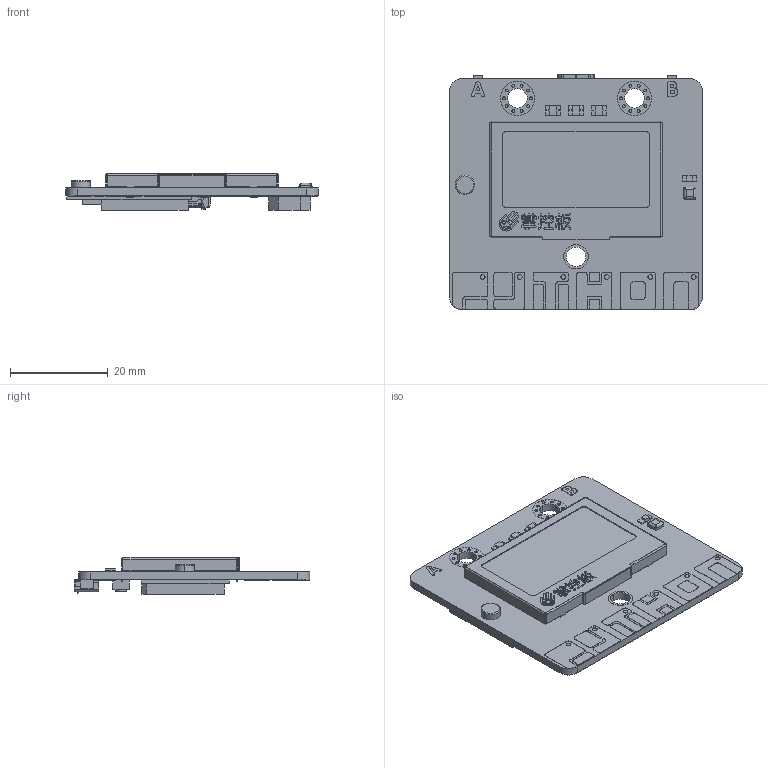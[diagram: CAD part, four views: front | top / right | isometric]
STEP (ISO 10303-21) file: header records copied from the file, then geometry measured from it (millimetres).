
FILE_DESCRIPTION((''),'2;1');
FILE_NAME('777','2019-02-18T',('Administrator'),(''),'PRO/ENGINEER BY PARAMETRIC TECHNOLOGY CORPORATION, 2010100','PRO/ENGINEER BY PARAMETRIC TECHNOLOGY CORPORATION, 2010100','');
FILE_SCHEMA(('AUTOMOTIVE_DESIGN { 1 2 10303 214 0 1 1 1 }'));
Products named in the file (1): 777
Bounding box: 51.8 x 48.29 x 7.54 mm (x, y, z)
Volume: 7472.8 mm3; surface area: 7498.1 mm2
Topology: 1 solids, 1 shells, 1937 faces, 5249 edges, 3465 vertices
Faces by surface type: plane 1062, cylinder 456, extrusion 403, bspline 12, sphere 2, torus 2
Entity records: 84481 total; most frequent: CARTESIAN_POINT 15691, ORIENTED_EDGE 10494, DIRECTION 8690, PRESENTATION_STYLE_ASSIGNMENT 5669, STYLED_ITEM 5248, CURVE_STYLE 5247, EDGE_CURVE 5247, VECTOR 3862
